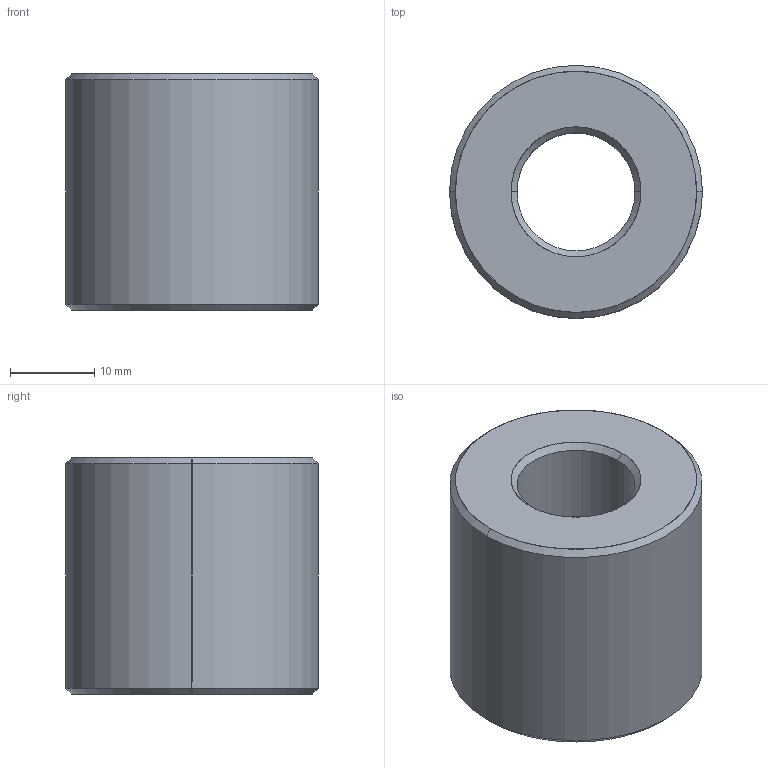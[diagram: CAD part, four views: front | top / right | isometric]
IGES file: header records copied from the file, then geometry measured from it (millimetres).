
Start section: SolidWorks IGES file using analytic representation for surfaces
Global section: file name: C:\Users\ianosborn\Desktop\L1330_v2\L1330_v2_20241024_IGES\L1330.L14-03.igs; native system: SolidWorks 2019; preprocessor: SolidWorks 2019; author: IanOsborn; date: 241024.102207; units: millimetre
Bounding box: 30 x 30 x 28 mm (x, y, z)
Surface area: 4862.9 mm2 (no closed solid volume)
Topology: 0 solids, 0 shells, 14 faces, 240 edges, 240 vertices
Faces by surface type: revolution 12, bspline 2
